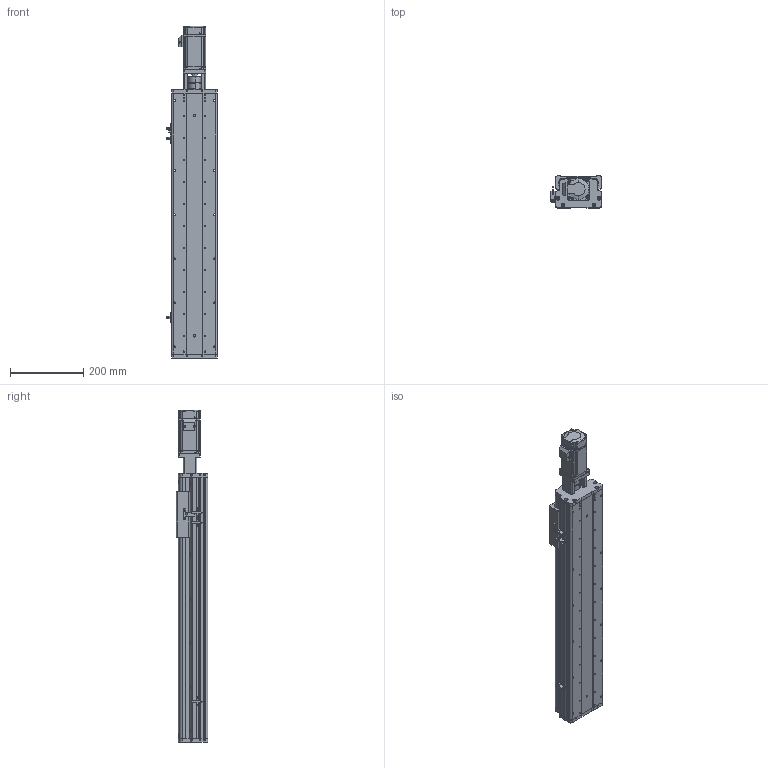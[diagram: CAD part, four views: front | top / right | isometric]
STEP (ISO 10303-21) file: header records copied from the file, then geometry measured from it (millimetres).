
FILE_DESCRIPTION (( 'STEP AP214' ), '1' );
FILE_NAME ('KSD125S-S500-MT-CM.STEP', '2017-08-07T06:42:07', ( '微软用户' ), ( '微软中国' ), 'SwSTEP 2.0', 'SolidWorks 2014', '' );
FILE_SCHEMA (( 'AUTOMOTIVE_DESIGN' ));
Length unit declared in the file: millimetre
Products named in the file (13): CS-34X32-10X14; KSD125S-500俴最佪裝滅鳥裔; 125-帣傷啣1; 100遵鎮湛假蚾啣1 ; KSD125S-S500-MT-CM; MHMD042G1CA_2_03; 拸萇儂釱滅袉菜; 覜茼え68遵圉猾敕; U倰嫖萇假蚾璃; U倰嫖萇EEㄜSX672; ヶ傷啣-125遵耀郪; KSD125-賑雄釱1; KSD125S-500俴最佪裝菁啣
Assembly tree (16 placements, depth 2):
  KSD125S-S500-MT-CM
    125-帣傷啣1
    KSD125S-500俴最佪裝滅鳥裔
    CS-34X32-10X14
    KSD125S-500俴最佪裝菁啣
    KSD125-賑雄釱1
    ヶ傷啣-125遵耀郪
    U倰嫖萇EEㄜSX672  x3
    U倰嫖萇假蚾璃  x3
    覜茼え68遵圉猾敕
    拸萇儂釱滅袉菜
    100遵鎮湛假蚾啣1 
    MHMD042G1CA_2_03
Bounding box: 138.7 x 86 x 903.5 mm (x, y, z)
Volume: 2572030.4 mm3; surface area: 856498.9 mm2
Topology: 15 solids, 18 shells, 1518 faces, 4376 edges, 2879 vertices
Faces by surface type: cylinder 766, plane 639, cone 91, bspline 22
Entity records: 53389 total; most frequent: CARTESIAN_POINT 11244, DIRECTION 7650, ORIENTED_EDGE 7260, EDGE_CURVE 3708, AXIS2_PLACEMENT_3D 2819, VERTEX_POINT 2471, LINE 2012, VECTOR 2012
